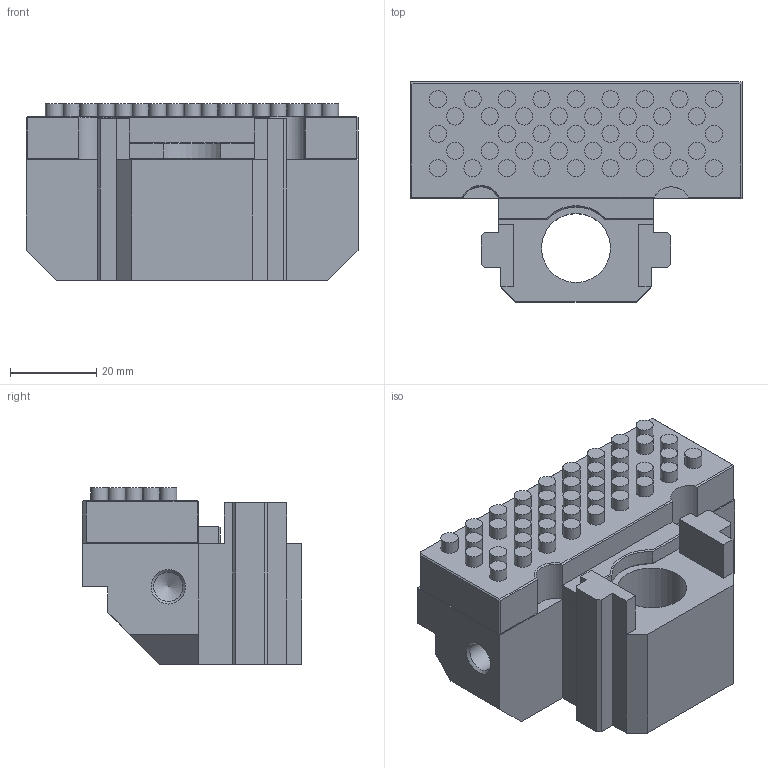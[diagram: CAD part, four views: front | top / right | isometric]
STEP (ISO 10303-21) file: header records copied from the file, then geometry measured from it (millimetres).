
FILE_DESCRIPTION (( 'STEP AP214' ), '1' );
FILE_NAME ('42018-77.STEP', '2020-04-06T09:19:59', ( '' ), ( '' ), 'SwSTEP 2.0', 'SolidWorks 2019', '' );
FILE_SCHEMA (( 'AUTOMOTIVE_DESIGN' ));
Length unit declared in the file: millimetre
Products named in the file (1): 42018-77
Bounding box: 77 x 51 x 41 mm (x, y, z)
Volume: 85126 mm3; surface area: 24814.9 mm2
Topology: 4 solids, 4 shells, 240 faces, 508 edges, 321 vertices
Faces by surface type: plane 148, cylinder 57, cone 29, torus 6
Full cylindrical faces by diameter (mm): 4 x41, 4.2 x2, 5 x2, 5.5 x2, 6.8 x2, 8.5 x2, 9 x2, 16 x1
Entity records: 8721 total; most frequent: CARTESIAN_POINT 1124, DIRECTION 1034, ORIENTED_EDGE 846, EDGE_CURVE 423, AXIS2_PLACEMENT_3D 394, EDGE_LOOP 365, VERTEX_POINT 310, FACE_OUTER_BOUND 300
